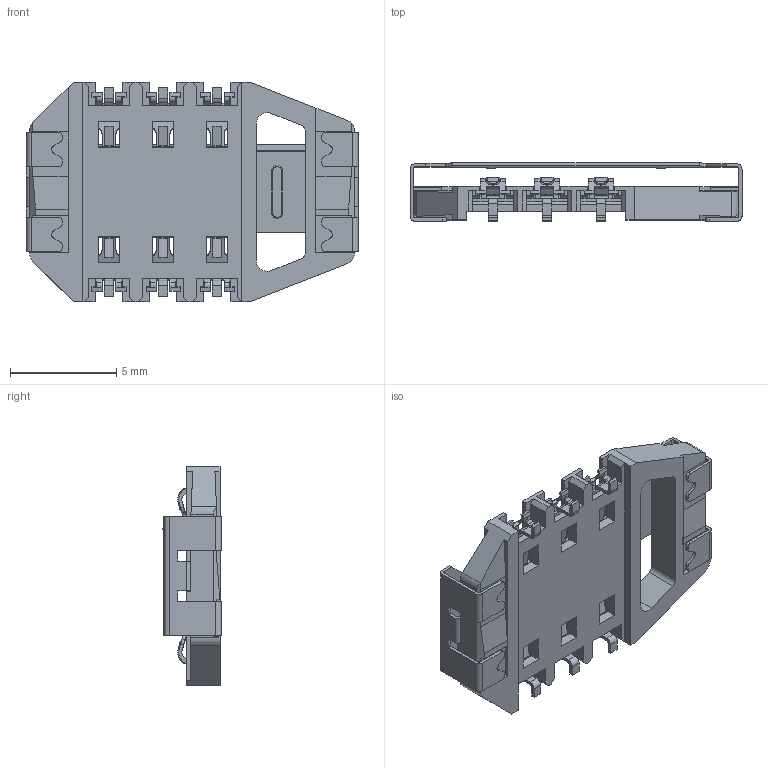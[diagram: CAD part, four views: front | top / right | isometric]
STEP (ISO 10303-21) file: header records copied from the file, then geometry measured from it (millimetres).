
FILE_DESCRIPTION((''),'2;1');
FILE_NAME('SIM-CARD_1050604DR018','2018-09-11T',('Administrator'),(''),'PRO/ENGINEER BY PARAMETRIC TECHNOLOGY CORPORATION, 2010280','PRO/ENGINEER BY PARAMETRIC TECHNOLOGY CORPORATION, 2010280','');
FILE_SCHEMA(('CONFIG_CONTROL_DESIGN'));
Length unit declared in the file: millimetre
Products named in the file (1): SIM-CARD_1050604DR018
Bounding box: 15.6 x 2.75 x 10.3 mm (x, y, z)
Volume: 148.6 mm3; surface area: 773.7 mm2
Topology: 1 solids, 1 shells, 889 faces, 2653 edges, 1734 vertices
Faces by surface type: plane 608, cylinder 211, torus 44, bspline 26
Entity records: 30128 total; most frequent: CARTESIAN_POINT 5869, ORIENTED_EDGE 5306, DIRECTION 4821, EDGE_CURVE 2653, VECTOR 2079, LINE 2079, VERTEX_POINT 1734, AXIS2_PLACEMENT_3D 1371
